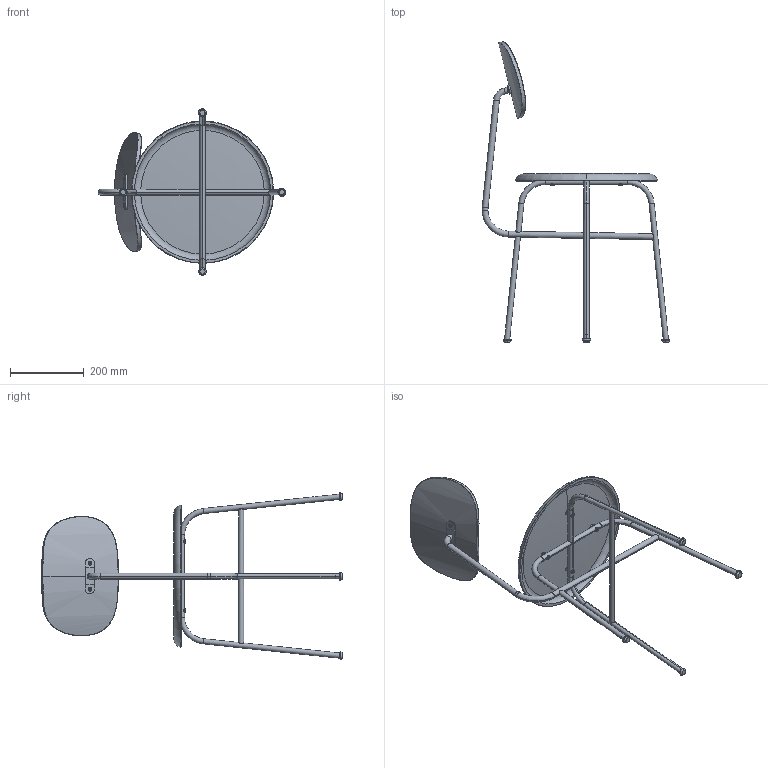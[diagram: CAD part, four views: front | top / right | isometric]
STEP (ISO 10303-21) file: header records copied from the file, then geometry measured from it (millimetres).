
FILE_DESCRIPTION (( 'STEP AP214' ), '1' );
FILE_NAME ('AFR_Dining Plus plywood seat.STEP', '2023-10-04T10:47:01', ( '' ), ( '' ), 'SwSTEP 2.0', 'SolidWorks 2022', '' );
FILE_SCHEMA (( 'AUTOMOTIVE_DESIGN' ));
Length unit declared in the file: millimetre
Products named in the file (17): afteroom dinning chair feet disk; AFR_Dining Plus plywood seat; afteroom dinning chair seat frame 2; 1000004; socket button head screw_iso_ISO 7380 - M6 x 12 - 12S; Afteroom_Dining_Chair_ply_seat; Back mounting_Default<As Machined>; afteroom dinning chair seat frame 1a; Countersunk m6 25; afteroom dinning chair back frame; Skids; M6 x 6 mm threaded insert; Mount disk 5mm; Afteroom_Dining_Chair_ply_seat_assem; Thread for backrest; afteroom dinning chair seat frame 1b; afteroom dinning chair seat frame 3
Assembly tree (33 placements, depth 3):
  AFR_Dining Plus plywood seat
    afteroom dinning chair seat frame 1a
    afteroom dinning chair seat frame 1b
    afteroom dinning chair seat frame 2  x2
    afteroom dinning chair seat frame 3
    afteroom dinning chair back frame
    Back mounting_Default<As Machined>
    Countersunk m6 25  x4
    1000004
    socket button head screw_iso_ISO 7380 - M6 x 12 - 12S  x2
    Thread for backrest  x2
    Skids  x4
    afteroom dinning chair feet disk  x3
    Mount disk 5mm  x4
    Afteroom_Dining_Chair_ply_seat_assem
      Afteroom_Dining_Chair_ply_seat
      M6 x 6 mm threaded insert  x4
Bounding box: 508.11 x 812 x 450.35 mm (x, y, z)
Volume: 1921937.6 mm3; surface area: 678197.3 mm2
Topology: 32 solids, 32 shells, 832 faces, 2080 edges, 1298 vertices
Faces by surface type: cylinder 442, cone 156, plane 133, torus 52, bspline 37, sphere 12
Entity records: 26126 total; most frequent: CARTESIAN_POINT 16694, ORIENTED_EDGE 1904, DIRECTION 1759, EDGE_CURVE 952, AXIS2_PLACEMENT_3D 720, VERTEX_POINT 589, EDGE_LOOP 415, ADVANCED_FACE 385
